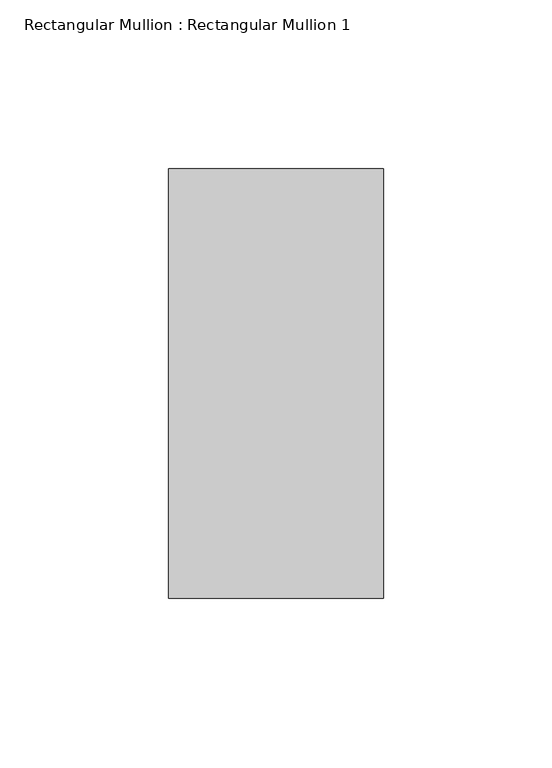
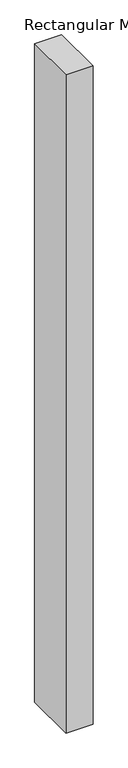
"""IFC4 building model written with IfcOpenShell, lengths in millimetres: member geometry, Rectangular Mullion : Rectangular Mullion 1."""

from ifc_helpers import new_model, si_unit, frame, origin, place, context, project, spatial, polyline, outline, extrude, source, transform, mapped, element, save


def rectangular_mullion_rectangular_mullion_1_19b272d7(model_context):
    return source(origin(), model_context, "Body", "SweptSolid", [
        extrude(outline(polyline([(0.0, 63.5), (0.0, -63.5), (-63.5, -63.5), (-63.5, 63.5), (0.0, 63.5)])), frame((0.0, 0.0, -1636.4999998), z_axis=(0.0, 0.0, 1.0), x_axis=(1.0, 0.0, 0.0)), (0.0, 0.0, 1.0), 1636.4999998),
    ])


if __name__ == "__main__":
    model = new_model("IFC4")
    model_context = context("Model", 3, world=origin())
    ifc_project = project(units=[si_unit("LENGTHUNIT", "METRE", prefix="MILLI")], contexts=[model_context])
    site = spatial("IfcSite", under=ifc_project)
    building = spatial("IfcBuilding", under=site)
    placement = place(None, origin())
    rectangular_mullion_rectangular_mullion_1_shape = rectangular_mullion_rectangular_mullion_1_19b272d7(model_context)
    element("IfcMember", 1, ObjectType="Rectangular Mullion : Rectangular Mullion 1", at=placement, inside=building, context=model_context, shape_type="MappedRepresentation", body=[
        mapped(rectangular_mullion_rectangular_mullion_1_shape, transform((0.0, 0.0, 0.0), x_axis=(1.0, 0.0, 0.0), y_axis=(0.0, 1.0, 0.0), z_axis=(0.0, 0.0, 1.0))),
    ])
    save(model, "model.ifc")
